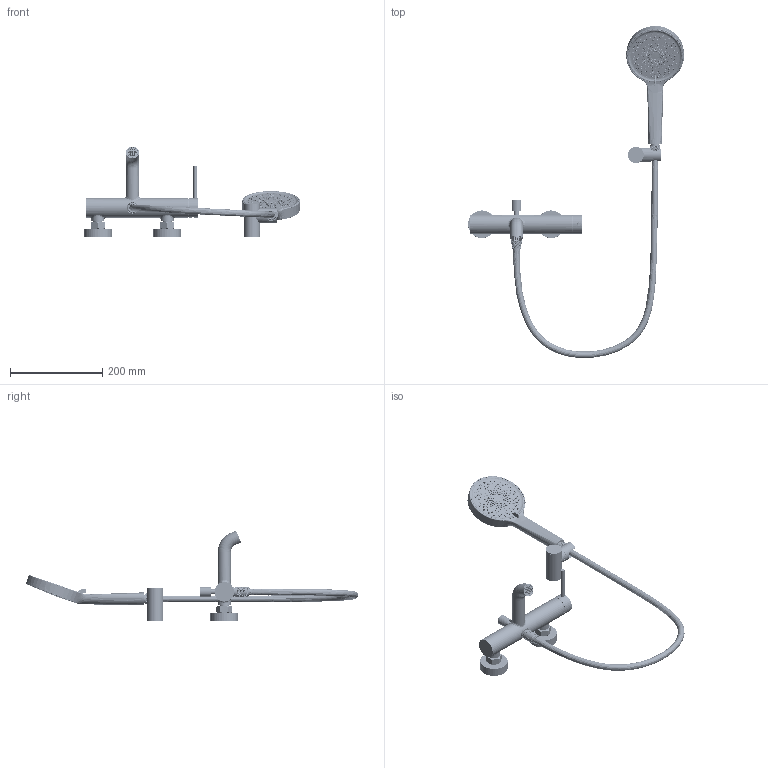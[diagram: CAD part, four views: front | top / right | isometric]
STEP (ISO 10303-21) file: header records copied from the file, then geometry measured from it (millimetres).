
FILE_DESCRIPTION((''),'2;1');
FILE_NAME('OM-88639017_ASM','2024-10-31T15:57:03',('GL-JISHU1'),(''),'CREO PARAMETRIC BY PTC INC, 2021063','CREO PARAMETRIC BY PTC INC, 2021063','');
FILE_SCHEMA(('AUTOMOTIVE_DESIGN { 1 0 10303 214 1 1 1 1 }'));
Products named in the file (54): 5ZT-639017-BCR; 3FX-001023-MAA-R01; 3FX-001023-MAA-R02; 3FX-001023-MAA-R03; 3FX-001023-MAA-R04; 3FX-001023-MAA-R05; 3FX-001023-MAA-R06; 3FX-001023-MAA_ASM; 3YG-001009-AJJ; 5BS-181013-1-ACR; 5BS-181013-2-ACR; 3LS-001077-JAA; 3LS-001064-JAA; 3SN-001001-MCR; 181013000_ASM; 3CX-001059-01-AJJ; ATBA1027-02; ATBA1027-03; 3CX-001059-02-ACR; ATBA1027-05; ATBA1027-06; ATBA1027-07; ATBA1027-08; 3CX-001059-03-ACR; ATBA1027-10; 3CX-001059-BCR_ASM; 3ZG-010027-MCR; 5JT-001272-ACR; 3JQ-001195-NAA_AF0; 3WD-001005-MAA; 3JT-001167-JAA; 3LM-001022-ACR; 3JQ-001386-NAA; 3ZB-001002-KCR; 3JQ-001095-NAA; 0001_ASM; 4JT-001063-AJJ; 3JQ-001068-NAA; 3HZ-001057-ACR-1; 3HZ-001057-ACR-2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
Assembly tree (55 placements, depth 4):
  OM-88639017_ASM
    5ZT-639017-BCR
    3FX-001023-MAA_ASM
      3FX-001023-MAA-R01
      3FX-001023-MAA-R02
      3FX-001023-MAA-R03
      3FX-001023-MAA-R04
      3FX-001023-MAA-R05
      3FX-001023-MAA-R06
    3YG-001009-AJJ
    181013000_ASM
      5BS-181013-1-ACR
      5BS-181013-2-ACR
      3LS-001077-JAA
      3LS-001064-JAA
      3SN-001001-MCR
    3CX-001059-BCR_ASM
      3CX-001059-01-AJJ
      ATBA1027-02
      ATBA1027-03
      3CX-001059-02-ACR
      ATBA1027-05
      ATBA1027-06
      ATBA1027-07
      ATBA1027-08
      3CX-001059-03-ACR
      ATBA1027-10
    3ZG-010027-MCR
    5JT-001272-ACR
    3JQ-001195-NAA_AF0
    3WD-001005-MAA
    0001_ASM  x2
      3JT-001167-JAA
      3LM-001022-ACR
      3JQ-001386-NAA
      3ZB-001002-KCR
      3JQ-001095-NAA
    4JT-001063-AJJ
    3JQ-001068-NAA
    PT-HZ2325_ASM
      3HZ-001057-ACR_ASM
        3HZ-001057-ACR-1
        3HZ-001057-ACR-2
        3HZ-001057-ACR-3
      3SJ-001060-MAA-XX
      3HZ-001058-ACR
      00
      3LS-001027-JAA
      23170001
      3ZB-001039-ACR
    3RG-001049-JCR_ASM
      3RG-001049-JCR
      PVC0001  x2
    3SC-001013-ACR
Bounding box: 467.47 x 718.54 x 196.79 mm (x, y, z)
Volume: 721650.3 mm3; surface area: 329129.6 mm2
Topology: 52 solids, 55 shells, 9881 faces, 24402 edges, 15149 vertices
Faces by surface type: bspline 3208, plane 2585, cone 1783, cylinder 1100, torus 1079, sphere 110, extrusion 16
Entity records: 389297 total; most frequent: CARTESIAN_POINT 200837, ORIENTED_EDGE 39162, DIRECTION 31005, EDGE_CURVE 19581, AXIS2_PLACEMENT_3D 12604, VERTEX_POINT 12484, EDGE_LOOP 8443, FACE_OUTER_BOUND 7768
